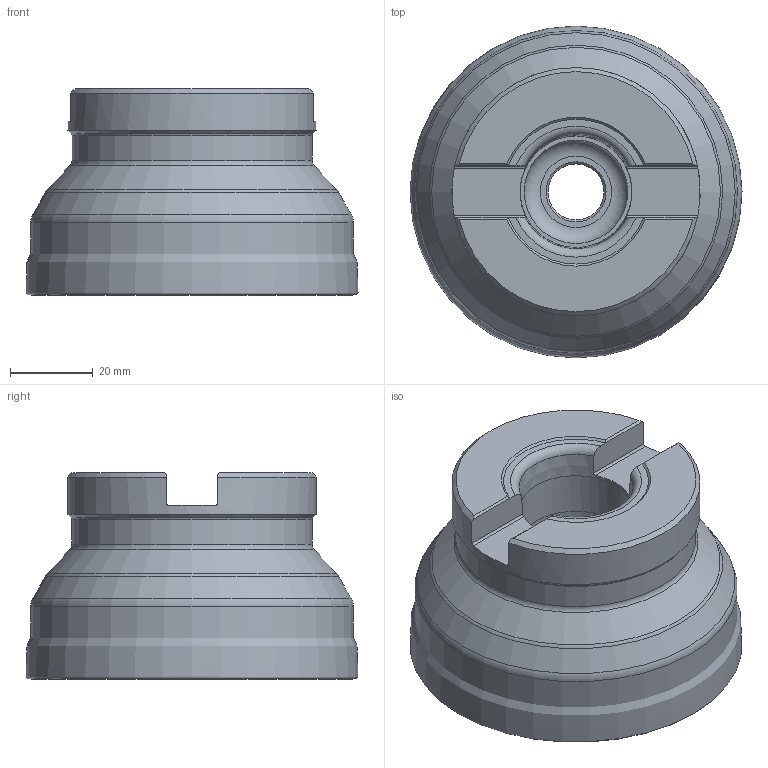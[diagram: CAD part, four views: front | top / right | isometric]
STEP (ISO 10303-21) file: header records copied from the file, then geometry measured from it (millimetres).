
FILE_DESCRIPTION(/* description */ (''),/* implementation_level */ '2;1');
FILE_NAME(/* name */ '637723486359623790.stp',/* time_stamp */ '2021-11-12T21:17:27+08:00',/* author */ (''),/* organization */ (''),/* preprocessor_version */ 'ST-DEVELOPER v16.7',/* originating_system */ 'SIEMENS PLM Software NX 12.0',/* authorisation */ '');
FILE_SCHEMA (('AUTOMOTIVE_DESIGN { 1 0 10303 214 3 1 1 1 }'));
Length unit declared in the file: millimetre
Products named in the file (2): 637723486316984183_WNHU080608PNR-GM; 637723486296552498_FMP12-080-A27-WN08-06C_S
Assembly tree (6 placements, depth 2):
  637723486296552498_FMP12-080-A27-WN08-06C_S
    637723486316984183_WNHU080608PNR-GM  x6
Bounding box: 80.23 x 80.22 x 49.84 mm (x, y, z)
Volume: 180643.3 mm3; surface area: 31825.5 mm2
Topology: 2 solids, 2 shells, 65 faces, 155 edges, 95 vertices
Faces by surface type: plane 19, cone 16, torus 13, cylinder 12, revolution 5
Full cylindrical faces by diameter (mm): 13.5 x1, 20 x1, 27 x1, 29 x1, 58 x1, 60 x1, 77.4 x1, 78 x1
Entity records: 1966 total; most frequent: CARTESIAN_POINT 577, DIRECTION 271, ORIENTED_EDGE 214, AXIS2_PLACEMENT_3D 121, EDGE_CURVE 107, EDGE_LOOP 104, VERTEX_POINT 83, FACE_BOUND 80
